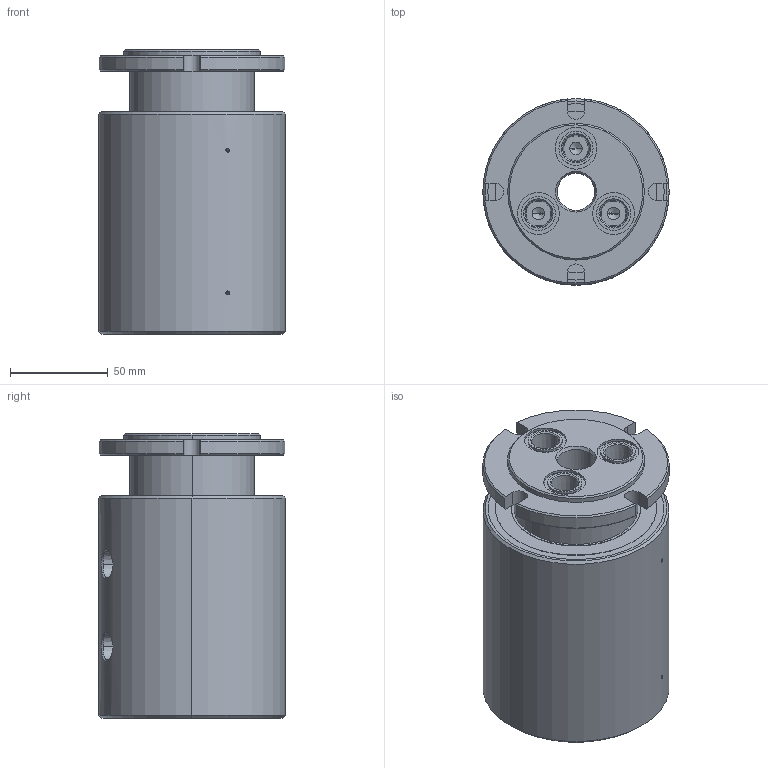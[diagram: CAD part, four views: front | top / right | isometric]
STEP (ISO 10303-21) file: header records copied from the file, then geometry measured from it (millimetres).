
FILE_DESCRIPTION (( 'STEP AP214' ), '1' );
FILE_NAME ('GP(M)-231.STEP', '2013-02-05T22:23:17', ( '' ), ( '' ), 'SwSTEP 2.0', 'SolidWorks 2011', '' );
FILE_SCHEMA (( 'AUTOMOTIVE_DESIGN' ));
Length unit declared in the file: inch
Products named in the file (1): GP(M)-231
Bounding box: 95.25 x 95.25 x 145.44 mm (x, y, z)
Volume: 840967.5 mm3; surface area: 82308.4 mm2
Topology: 1 solids, 1 shells, 206 faces, 486 edges, 291 vertices
Faces by surface type: cylinder 87, cone 68, plane 43, bspline 6, torus 2
Entity records: 6714 total; most frequent: CARTESIAN_POINT 1684, DIRECTION 1040, ORIENTED_EDGE 912, EDGE_CURVE 456, AXIS2_PLACEMENT_3D 427, VERTEX_POINT 291, EDGE_LOOP 247, CIRCLE 226
